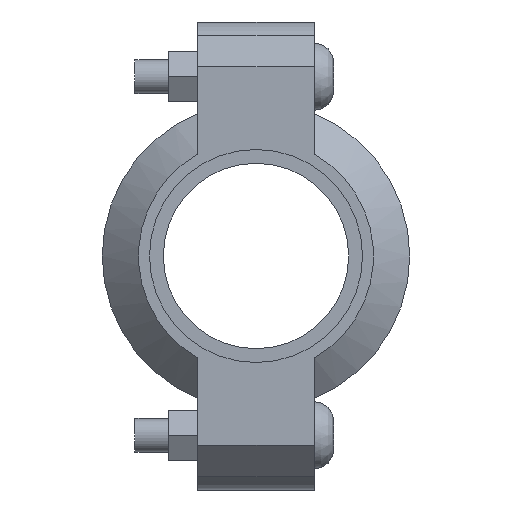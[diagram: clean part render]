
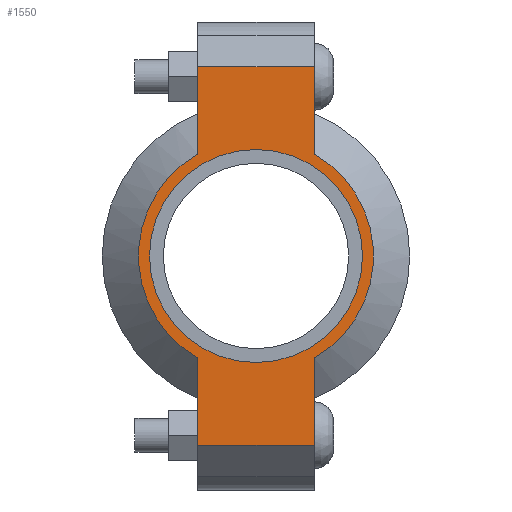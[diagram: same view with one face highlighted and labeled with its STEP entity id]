
A CAD part, left-side view. The second image highlights one B-rep face of the part: STEP entity #1550.
In plain terms, the highlighted planar face has unit normal (-1, 0, 0) as drawn and (0, 0, 1) by its records, which use the part's own axes.
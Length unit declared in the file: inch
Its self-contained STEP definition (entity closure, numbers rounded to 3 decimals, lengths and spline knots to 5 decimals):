
#174=LINE('',#2705,#267);
#182=LINE('',#2741,#275);
#189=LINE('',#2762,#282);
#198=LINE('',#2794,#291);
#199=LINE('',#2798,#292);
#200=LINE('',#2800,#293);
#267=VECTOR('',#2205,0.3937);
#275=VECTOR('',#2221,0.3937);
#282=VECTOR('',#2240,0.3937);
#291=VECTOR('',#2265,0.3937);
#292=VECTOR('',#2270,0.3937);
#293=VECTOR('',#2271,0.3937);
#349=FACE_BOUND('',#527,.T.);
#421=FACE_OUTER_BOUND('',#526,.T.);
#526=EDGE_LOOP('',(#1291,#1292,#1293,#1294,#1295,#1296,#1297,#1298));
#527=EDGE_LOOP('',(#1299));
#599=CIRCLE('',#1769,1.1875);
#625=CIRCLE('',#1828,1.31);
#626=CIRCLE('',#1829,1.31);
#691=VERTEX_POINT('',#2521);
#734=VERTEX_POINT('',#2702);
#735=VERTEX_POINT('',#2704);
#746=VERTEX_POINT('',#2736);
#747=VERTEX_POINT('',#2740);
#754=VERTEX_POINT('',#2759);
#755=VERTEX_POINT('',#2761);
#765=VERTEX_POINT('',#2797);
#766=VERTEX_POINT('',#2799);
#847=EDGE_CURVE('',#691,#691,#599,.T.);
#908=EDGE_CURVE('',#735,#734,#174,.T.);
#922=EDGE_CURVE('',#747,#746,#182,.T.);
#932=EDGE_CURVE('',#755,#754,#189,.T.);
#947=EDGE_CURVE('',#747,#734,#198,.T.);
#948=EDGE_CURVE('',#746,#755,#625,.T.);
#949=EDGE_CURVE('',#765,#754,#199,.T.);
#950=EDGE_CURVE('',#765,#766,#200,.T.);
#951=EDGE_CURVE('',#766,#735,#626,.T.);
#1291=ORIENTED_EDGE('',*,*,#947,.F.);
#1292=ORIENTED_EDGE('',*,*,#922,.T.);
#1293=ORIENTED_EDGE('',*,*,#948,.T.);
#1294=ORIENTED_EDGE('',*,*,#932,.T.);
#1295=ORIENTED_EDGE('',*,*,#949,.F.);
#1296=ORIENTED_EDGE('',*,*,#950,.T.);
#1297=ORIENTED_EDGE('',*,*,#951,.T.);
#1298=ORIENTED_EDGE('',*,*,#908,.T.);
#1299=ORIENTED_EDGE('',*,*,#847,.T.);
#1392=PLANE('',#1827);
#1550=ADVANCED_FACE('',(#421,#349),#1392,.T.);
#1769=AXIS2_PLACEMENT_3D('',#2523,#2081,#2082);
#1827=AXIS2_PLACEMENT_3D('',#2795,#2266,#2267);
#1828=AXIS2_PLACEMENT_3D('',#2796,#2268,#2269);
#1829=AXIS2_PLACEMENT_3D('',#2801,#2272,#2273);
#2081=DIRECTION('center_axis',(0.,0.,-1.));
#2082=DIRECTION('ref_axis',(-1.,0.,0.));
#2205=DIRECTION('',(-1.,0.,0.));
#2221=DIRECTION('',(1.,0.,0.));
#2240=DIRECTION('',(1.,0.,0.));
#2265=DIRECTION('',(0.,1.,0.));
#2266=DIRECTION('center_axis',(0.,0.,1.));
#2267=DIRECTION('ref_axis',(1.,0.,0.));
#2268=DIRECTION('center_axis',(0.,0.,1.));
#2269=DIRECTION('ref_axis',(-1.,0.,0.));
#2270=DIRECTION('',(0.,-1.,0.));
#2271=DIRECTION('',(-1.,0.,0.));
#2272=DIRECTION('center_axis',(0.,0.,1.));
#2273=DIRECTION('ref_axis',(-1.,0.,0.));
#2521=CARTESIAN_POINT('',(1.1875,0.,0.94));
#2523=CARTESIAN_POINT('Origin',(0.,0.,0.94));
#2702=CARTESIAN_POINT('',(-2.11,0.65,0.94));
#2704=CARTESIAN_POINT('',(-1.13737,0.65,0.94));
#2705=CARTESIAN_POINT('',(-2.61,0.65,0.94));
#2736=CARTESIAN_POINT('',(-1.13737,-0.65,0.94));
#2740=CARTESIAN_POINT('',(-2.11,-0.65,0.94));
#2741=CARTESIAN_POINT('',(2.61,-0.65,0.94));
#2759=CARTESIAN_POINT('',(2.11,-0.65,0.94));
#2761=CARTESIAN_POINT('',(1.13737,-0.65,0.94));
#2762=CARTESIAN_POINT('',(2.61,-0.65,0.94));
#2794=CARTESIAN_POINT('',(-2.11,0.325,0.94));
#2795=CARTESIAN_POINT('Origin',(0.,0.,0.94));
#2796=CARTESIAN_POINT('Origin',(0.,0.,0.94));
#2797=CARTESIAN_POINT('',(2.11,0.65,0.94));
#2798=CARTESIAN_POINT('',(2.11,-0.325,0.94));
#2799=CARTESIAN_POINT('',(1.13737,0.65,0.94));
#2800=CARTESIAN_POINT('',(-2.61,0.65,0.94));
#2801=CARTESIAN_POINT('Origin',(0.,0.,0.94));
